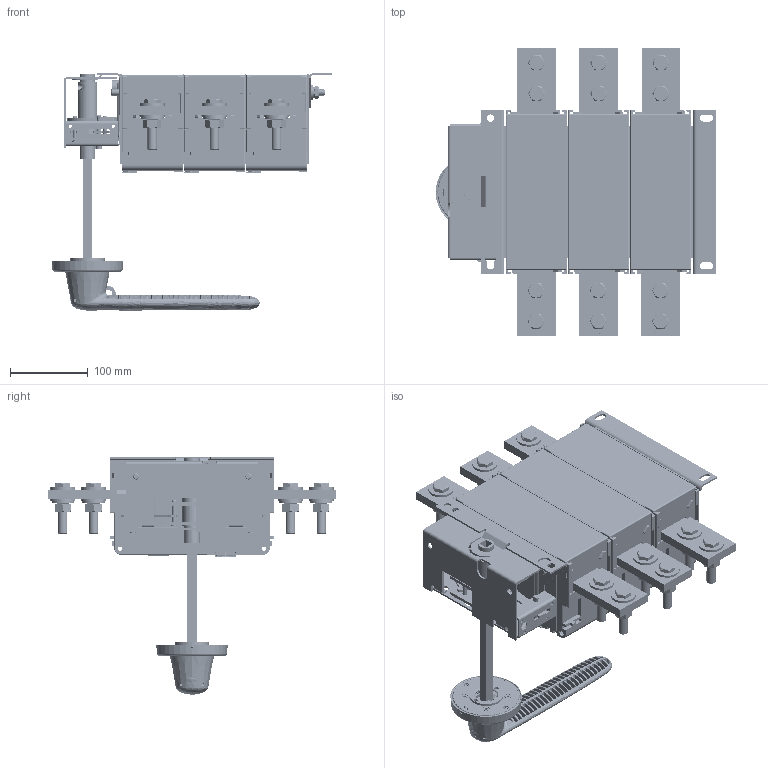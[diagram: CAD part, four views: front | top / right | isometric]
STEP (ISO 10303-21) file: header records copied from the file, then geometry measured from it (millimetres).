
FILE_DESCRIPTION (( 'STEP AP203' ), '1' );
FILE_NAME ('OptiSwitch DI-4-1000-3P.STEP', '2019-04-09T05:48:16', ( '' ), ( '' ), 'SwSTEP 2.0', 'SolidWorks 2018', '' );
FILE_SCHEMA (( 'CONFIG_CONTROL_DESIGN' ));
Products named in the file (1): OptiSwitch DI-4-1000-3P
Bounding box: 361 x 371.6 x 305.11 mm (x, y, z)
Volume: 2922569.9 mm3; surface area: 1701947.7 mm2
Topology: 142 solids, 142 shells, 9392 faces, 24086 edges, 15000 vertices
Faces by surface type: plane 4572, cylinder 2715, bspline 1085, torus 532, cone 305, sphere 183
Entity records: 403290 total; most frequent: CARTESIAN_POINT 181746, ORIENTED_EDGE 47806, DIRECTION 43687, EDGE_CURVE 23903, VERTEX_POINT 14952, AXIS2_PLACEMENT_3D 14943, VECTOR 13801, LINE 13801
